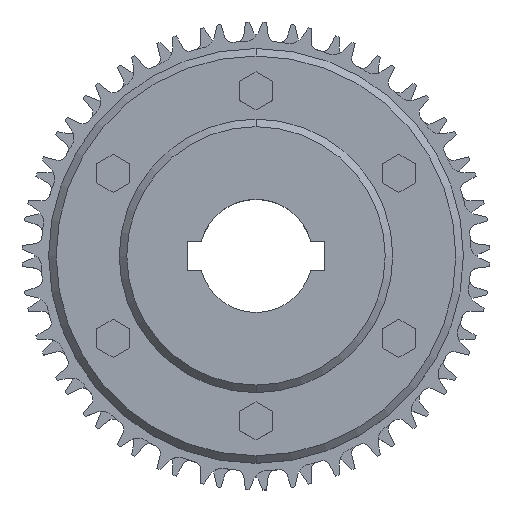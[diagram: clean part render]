
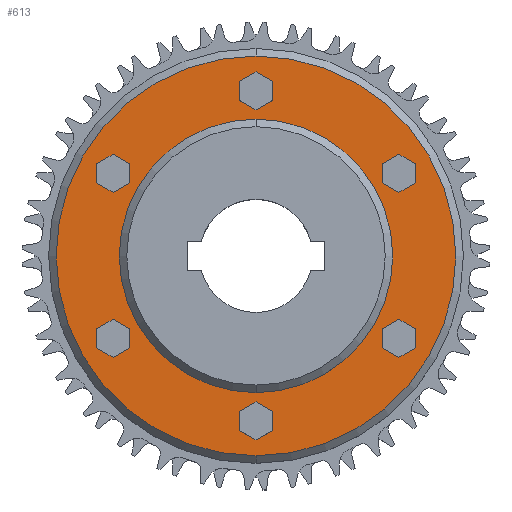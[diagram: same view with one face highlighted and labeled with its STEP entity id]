
A CAD part, top view. The second image highlights one B-rep face of the part: STEP entity #613.
In plain terms, the highlighted planar face has unit normal (0, 0, 1) as drawn and (0, 1, 0) by its records, which use the part's own axes.
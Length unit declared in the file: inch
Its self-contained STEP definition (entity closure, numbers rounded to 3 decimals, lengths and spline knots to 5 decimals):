
#109=CARTESIAN_POINT('',(0.,0.095,0.));
#110=DIRECTION('',(0.,1.,0.));
#111=DIRECTION('',(1.,0.,0.));
#112=AXIS2_PLACEMENT_3D('',#109,#110,#111);
#119=CARTESIAN_POINT('',(0.,0.095,0.));
#120=DIRECTION('',(0.,-1.,0.));
#121=DIRECTION('',(1.,0.,0.));
#122=AXIS2_PLACEMENT_3D('',#119,#120,#121);
#124=CARTESIAN_POINT('',(0.,0.095,0.));
#125=DIRECTION('',(0.,-1.,0.));
#126=DIRECTION('',(-1.,0.,0.));
#127=AXIS2_PLACEMENT_3D('',#124,#125,#126);
#129=CARTESIAN_POINT('',(-2.188,0.095,0.));
#130=DIRECTION('',(0.,-1.,0.));
#131=DIRECTION('',(1.,0.,0.));
#132=AXIS2_PLACEMENT_3D('',#129,#130,#131);
#134=CARTESIAN_POINT('',(-2.188,0.095,0.));
#135=DIRECTION('',(0.,-1.,0.));
#136=DIRECTION('',(-1.,0.,0.));
#137=AXIS2_PLACEMENT_3D('',#134,#135,#136);
#139=CARTESIAN_POINT('',(-1.094,0.095,-1.89486));
#140=DIRECTION('',(0.,-1.,0.));
#141=DIRECTION('',(0.5,0.,0.866));
#142=AXIS2_PLACEMENT_3D('',#139,#140,#141);
#144=CARTESIAN_POINT('',(-1.094,0.095,-1.89486));
#145=DIRECTION('',(0.,-1.,0.));
#146=DIRECTION('',(-0.5,0.,-0.866));
#147=AXIS2_PLACEMENT_3D('',#144,#145,#146);
#149=CARTESIAN_POINT('',(1.094,0.095,-1.89486));
#150=DIRECTION('',(0.,-1.,0.));
#151=DIRECTION('',(-0.5,0.,0.866));
#152=AXIS2_PLACEMENT_3D('',#149,#150,#151);
#154=CARTESIAN_POINT('',(1.094,0.095,-1.89486));
#155=DIRECTION('',(0.,-1.,0.));
#156=DIRECTION('',(0.5,0.,-0.866));
#157=AXIS2_PLACEMENT_3D('',#154,#155,#156);
#159=CARTESIAN_POINT('',(2.188,0.095,0.));
#160=DIRECTION('',(0.,-1.,0.));
#161=DIRECTION('',(-1.,0.,0.));
#162=AXIS2_PLACEMENT_3D('',#159,#160,#161);
#164=CARTESIAN_POINT('',(2.188,0.095,0.));
#165=DIRECTION('',(0.,-1.,0.));
#166=DIRECTION('',(1.,0.,0.));
#167=AXIS2_PLACEMENT_3D('',#164,#165,#166);
#169=CARTESIAN_POINT('',(1.094,0.095,1.89486));
#170=DIRECTION('',(0.,-1.,0.));
#171=DIRECTION('',(-0.5,0.,-0.866));
#172=AXIS2_PLACEMENT_3D('',#169,#170,#171);
#174=CARTESIAN_POINT('',(1.094,0.095,1.89486));
#175=DIRECTION('',(0.,-1.,0.));
#176=DIRECTION('',(0.5,0.,0.866));
#177=AXIS2_PLACEMENT_3D('',#174,#175,#176);
#179=CARTESIAN_POINT('',(-1.094,0.095,1.89486));
#180=DIRECTION('',(0.,-1.,0.));
#181=DIRECTION('',(0.5,0.,-0.866));
#182=AXIS2_PLACEMENT_3D('',#179,#180,#181);
#184=CARTESIAN_POINT('',(-1.094,0.095,1.89486));
#185=DIRECTION('',(0.,-1.,0.));
#186=DIRECTION('',(-0.5,0.,0.866));
#187=AXIS2_PLACEMENT_3D('',#184,#185,#186);
#291=CARTESIAN_POINT('',(0.,0.095,0.));
#292=DIRECTION('',(0.,1.,0.));
#293=DIRECTION('',(-1.,0.,0.));
#294=AXIS2_PLACEMENT_3D('',#291,#292,#293);
#365=CARTESIAN_POINT('',(1.813,0.095,0.));
#366=CARTESIAN_POINT('',(-1.813,0.095,0.));
#367=VERTEX_POINT('',#365);
#368=VERTEX_POINT('',#366);
#369=CARTESIAN_POINT('',(2.65,0.095,0.));
#370=CARTESIAN_POINT('',(-2.65,0.095,0.));
#371=VERTEX_POINT('',#369);
#372=VERTEX_POINT('',#370);
#381=CARTESIAN_POINT('',(-2.061,0.095,0.));
#382=CARTESIAN_POINT('',(-2.315,0.095,0.));
#383=VERTEX_POINT('',#381);
#384=VERTEX_POINT('',#382);
#413=CARTESIAN_POINT('',(-1.0305,0.095,-1.78488));
#414=CARTESIAN_POINT('',(-1.1575,0.095,-2.00485));
#415=VERTEX_POINT('',#413);
#416=VERTEX_POINT('',#414);
#417=CARTESIAN_POINT('',(1.0305,0.095,-1.78488));
#418=CARTESIAN_POINT('',(1.1575,0.095,-2.00485));
#419=VERTEX_POINT('',#417);
#420=VERTEX_POINT('',#418);
#421=CARTESIAN_POINT('',(2.061,0.095,0.));
#422=CARTESIAN_POINT('',(2.315,0.095,0.));
#423=VERTEX_POINT('',#421);
#424=VERTEX_POINT('',#422);
#425=CARTESIAN_POINT('',(1.0305,0.095,1.78488));
#426=CARTESIAN_POINT('',(1.1575,0.095,2.00485));
#427=VERTEX_POINT('',#425);
#428=VERTEX_POINT('',#426);
#429=CARTESIAN_POINT('',(-1.0305,0.095,1.78488));
#430=CARTESIAN_POINT('',(-1.1575,0.095,2.00485));
#431=VERTEX_POINT('',#429);
#432=VERTEX_POINT('',#430);
#561=CARTESIAN_POINT('',(0.,0.095,0.));
#562=DIRECTION('',(0.,1.,0.));
#563=DIRECTION('',(1.,0.,0.));
#564=AXIS2_PLACEMENT_3D('',#561,#562,#563);
#565=PLANE('',#564);
#566=ORIENTED_EDGE('',*,*,#551,.F.);
#568=ORIENTED_EDGE('',*,*,#567,.F.);
#569=EDGE_LOOP('',(#566,#568));
#570=FACE_OUTER_BOUND('',#569,.F.);
#572=ORIENTED_EDGE('',*,*,#571,.F.);
#574=ORIENTED_EDGE('',*,*,#573,.F.);
#575=EDGE_LOOP('',(#572,#574));
#576=FACE_BOUND('',#575,.F.);
#578=ORIENTED_EDGE('',*,*,#577,.F.);
#580=ORIENTED_EDGE('',*,*,#579,.F.);
#581=EDGE_LOOP('',(#578,#580));
#582=FACE_BOUND('',#581,.F.);
#584=ORIENTED_EDGE('',*,*,#583,.F.);
#586=ORIENTED_EDGE('',*,*,#585,.F.);
#587=EDGE_LOOP('',(#584,#586));
#588=FACE_BOUND('',#587,.F.);
#590=ORIENTED_EDGE('',*,*,#589,.F.);
#592=ORIENTED_EDGE('',*,*,#591,.F.);
#593=EDGE_LOOP('',(#590,#592));
#594=FACE_BOUND('',#593,.F.);
#596=ORIENTED_EDGE('',*,*,#595,.F.);
#598=ORIENTED_EDGE('',*,*,#597,.F.);
#599=EDGE_LOOP('',(#596,#598));
#600=FACE_BOUND('',#599,.F.);
#602=ORIENTED_EDGE('',*,*,#601,.F.);
#604=ORIENTED_EDGE('',*,*,#603,.F.);
#605=EDGE_LOOP('',(#602,#604));
#606=FACE_BOUND('',#605,.F.);
#608=ORIENTED_EDGE('',*,*,#607,.F.);
#610=ORIENTED_EDGE('',*,*,#609,.F.);
#611=EDGE_LOOP('',(#608,#610));
#612=FACE_BOUND('',#611,.F.);
#613=ADVANCED_FACE('',(#570,#576,#582,#588,#594,#600,#606,#612),#565,.T.);
#113=CIRCLE('',#112,2.65);
#123=CIRCLE('',#122,1.813);
#128=CIRCLE('',#127,1.813);
#133=CIRCLE('',#132,0.127);
#138=CIRCLE('',#137,0.127);
#143=CIRCLE('',#142,0.127);
#148=CIRCLE('',#147,0.127);
#153=CIRCLE('',#152,0.127);
#158=CIRCLE('',#157,0.127);
#163=CIRCLE('',#162,0.127);
#168=CIRCLE('',#167,0.127);
#173=CIRCLE('',#172,0.127);
#178=CIRCLE('',#177,0.127);
#183=CIRCLE('',#182,0.127);
#188=CIRCLE('',#187,0.127);
#295=CIRCLE('',#294,2.65);
#551=EDGE_CURVE('',#371,#372,#113,.T.);
#567=EDGE_CURVE('',#372,#371,#295,.T.);
#571=EDGE_CURVE('',#367,#368,#123,.T.);
#573=EDGE_CURVE('',#368,#367,#128,.T.);
#577=EDGE_CURVE('',#383,#384,#133,.T.);
#579=EDGE_CURVE('',#384,#383,#138,.T.);
#583=EDGE_CURVE('',#415,#416,#143,.T.);
#585=EDGE_CURVE('',#416,#415,#148,.T.);
#589=EDGE_CURVE('',#419,#420,#153,.T.);
#591=EDGE_CURVE('',#420,#419,#158,.T.);
#595=EDGE_CURVE('',#423,#424,#163,.T.);
#597=EDGE_CURVE('',#424,#423,#168,.T.);
#601=EDGE_CURVE('',#427,#428,#173,.T.);
#603=EDGE_CURVE('',#428,#427,#178,.T.);
#607=EDGE_CURVE('',#431,#432,#183,.T.);
#609=EDGE_CURVE('',#432,#431,#188,.T.);
